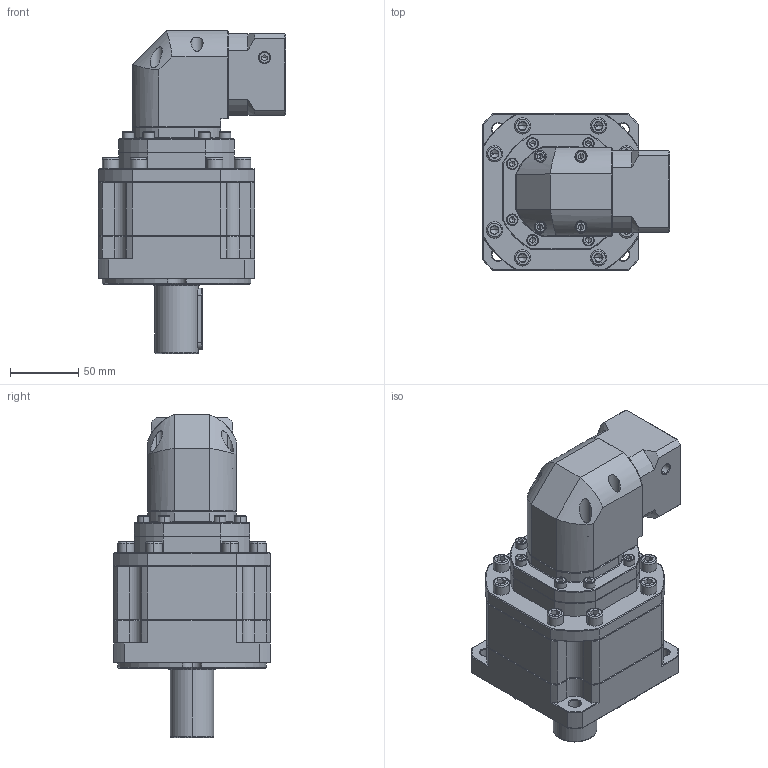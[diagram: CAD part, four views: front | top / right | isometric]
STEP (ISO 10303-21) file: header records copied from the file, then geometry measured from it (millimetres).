
FILE_DESCRIPTION (( 'STEP AP214' ), '1' );
FILE_NAME ('ZBR115A-D32-L3-P2-8-38.1-47.14x47.14-M4.step', '2023-08-26T14:08:01', ( '' ), ( '' ), 'SwSTEP 2.0', 'SolidWorks 2016', '' );
FILE_SCHEMA (( 'AUTOMOTIVE_DESIGN' ));
Length unit declared in the file: millimetre
Products named in the file (1): ZBR115A-D32-L3-P2-8-38.1-47.14x47.14-M4
Bounding box: 137.7 x 115 x 237.5 mm (x, y, z)
Volume: 1572438.9 mm3; surface area: 147343.9 mm2
Topology: 6 solids, 6 shells, 2632 faces, 6932 edges, 4421 vertices
Faces by surface type: plane 1300, cylinder 479, bspline 443, cone 390, torus 20
Entity records: 134738 total; most frequent: CARTESIAN_POINT 44265, ORIENTED_EDGE 13740, DIRECTION 11201, EDGE_CURVE 6870, VERTEX_POINT 4421, LINE 4347, VECTOR 4347, AXIS2_PLACEMENT_3D 3427
